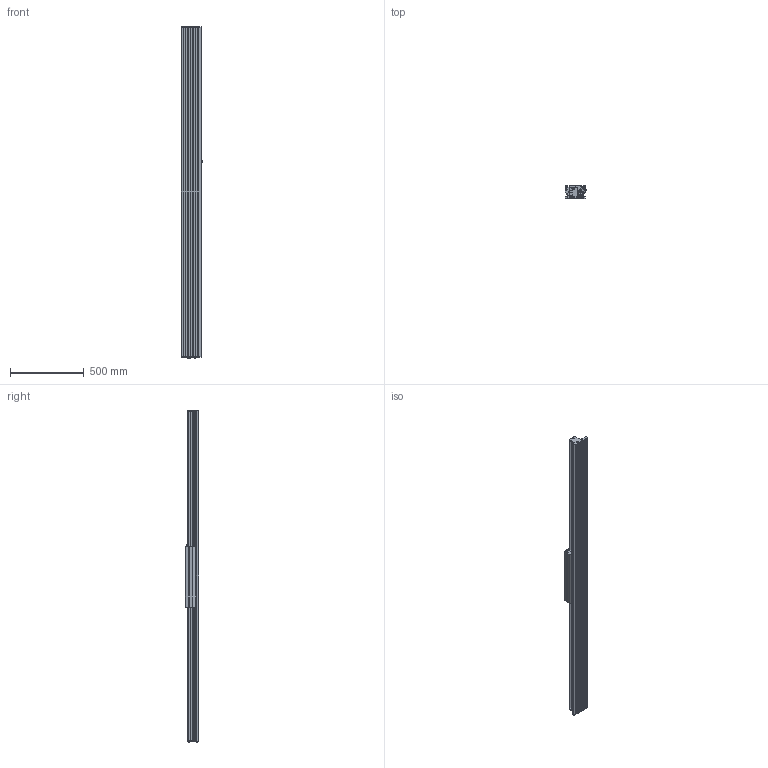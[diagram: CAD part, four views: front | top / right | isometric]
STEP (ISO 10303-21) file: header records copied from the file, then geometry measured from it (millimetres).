
FILE_DESCRIPTION (( 'STEP AP214' ), '1' );
FILE_NAME ('SINADRIVES Linear Motor Stage MLL20630XS-XX-1-0-ST-00-02244.STEP', '2015-07-07T08:00:18', ( 'Tecnico' ), ( '' ), 'SwSTEP 2.0', 'SolidWorks 2009', '' );
FILE_SCHEMA (( 'AUTOMOTIVE_DESIGN' ));
Length unit declared in the file: millimetre
Products named in the file (7): SINADRIVES CARRIAGE MLL20630XS-1; CARRIAGE MLL20630; Connector power+signal Y-tec 45; SINADRIVES PROFILE MLL2XXXX-2228; SINADRIVES ENDBLOCK MLL2; SINADRIVES ENDBLOCK MLL2-2; SINADRIVES Linear Motor Stage MLL20630XS-XX-1-0-ST-00-02244
Assembly tree (6 placements, depth 3):
  SINADRIVES Linear Motor Stage MLL20630XS-XX-1-0-ST-00-02244
    SINADRIVES PROFILE MLL2XXXX-2228
    SINADRIVES ENDBLOCK MLL2-2
    SINADRIVES ENDBLOCK MLL2
    SINADRIVES CARRIAGE MLL20630XS-1
      CARRIAGE MLL20630
      Connector power+signal Y-tec 45
Bounding box: 144.43 x 91 x 2252.8 mm (x, y, z)
Volume: 11242339.4 mm3; surface area: 1915249.1 mm2
Topology: 2 solids, 42 shells, 950 faces, 2640 edges, 1730 vertices
Faces by surface type: plane 445, cylinder 302, bspline 79, cone 70, torus 42, sphere 12
Entity records: 40587 total; most frequent: CARTESIAN_POINT 8656, ORIENTED_EDGE 5024, DIRECTION 4947, EDGE_CURVE 2622, AXIS2_PLACEMENT_3D 1781, VERTEX_POINT 1730, LINE 1385, VECTOR 1385
